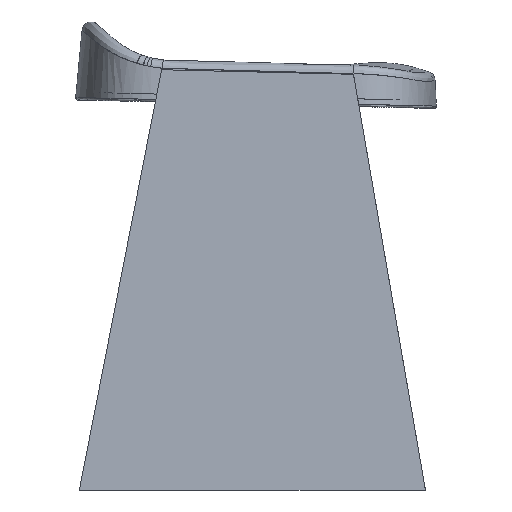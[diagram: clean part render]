
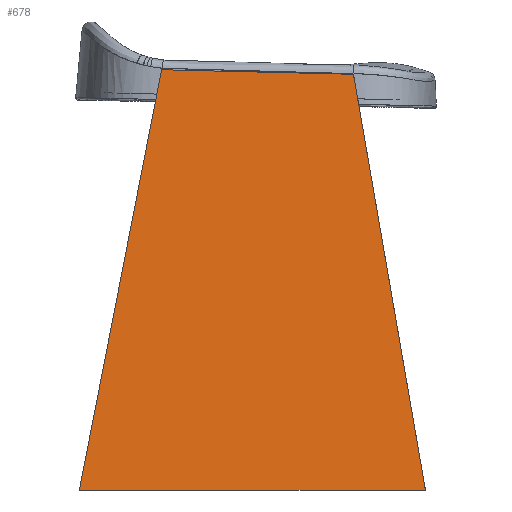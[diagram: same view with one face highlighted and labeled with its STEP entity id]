
A CAD part, left-side view. The second image highlights one B-rep face of the part: STEP entity #678.
In plain terms, the highlighted free-form (B-spline) face has degree [1, 1] with [2, 2] control points.
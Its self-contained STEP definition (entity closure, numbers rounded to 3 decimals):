
#678=ADVANCED_FACE('',(#775),#4259,.T.);
#775=FACE_OUTER_BOUND('',#880,.T.);
#880=EDGE_LOOP('',(#1276,#1277,#1278,#1279));
#1276=ORIENTED_EDGE('',*,*,#3060,.T.);
#1277=ORIENTED_EDGE('',*,*,#3061,.T.);
#1278=ORIENTED_EDGE('',*,*,#3062,.T.);
#1279=ORIENTED_EDGE('',*,*,#3063,.T.);
#1722=PCURVE('',#4259,#2168);
#1723=PCURVE('',#4259,#2169);
#1724=PCURVE('',#4259,#2170);
#1725=PCURVE('',#4259,#2171);
#2168=DEFINITIONAL_REPRESENTATION('',(#3653),#51778);
#2169=DEFINITIONAL_REPRESENTATION('',(#3655),#51778);
#2170=DEFINITIONAL_REPRESENTATION('',(#3657),#51778);
#2171=DEFINITIONAL_REPRESENTATION('',(#3659),#51778);
#2614=SURFACE_CURVE('',#3652,(#1722),.PCURVE_S1.);
#2615=SURFACE_CURVE('',#3654,(#1723),.PCURVE_S1.);
#2616=SURFACE_CURVE('',#3656,(#1724),.PCURVE_S1.);
#2617=SURFACE_CURVE('',#3658,(#1725),.PCURVE_S1.);
#3060=EDGE_CURVE('',#4166,#4167,#2614,.T.);
#3061=EDGE_CURVE('',#4167,#4164,#2615,.T.);
#3062=EDGE_CURVE('',#4164,#4165,#2616,.T.);
#3063=EDGE_CURVE('',#4165,#4166,#2617,.T.);
#3652=B_SPLINE_CURVE_WITH_KNOTS('',3,(#51271,#51272,#51273,#51274),
 .UNSPECIFIED.,.F.,.F.,(4,4),(1991.23,2369.877),
 .UNSPECIFIED.);
#3653=B_SPLINE_CURVE_WITH_KNOTS('',3,(#51275,#51276,#51277,#51278),
 .UNSPECIFIED.,.F.,.F.,(4,4),(1991.23,2369.877),
 .UNSPECIFIED.);
#3654=B_SPLINE_CURVE_WITH_KNOTS('',3,(#51279,#51280,#51281,#51282),
 .UNSPECIFIED.,.F.,.F.,(4,4),(2369.877,2832.75),
 .UNSPECIFIED.);
#3655=B_SPLINE_CURVE_WITH_KNOTS('',3,(#51283,#51284,#51285,#51286),
 .UNSPECIFIED.,.F.,.F.,(4,4),(2369.877,2832.75),
 .UNSPECIFIED.);
#3656=B_SPLINE_CURVE_WITH_KNOTS('',1,(#51287,#51288),.UNSPECIFIED.,.F.,
 .F.,(2,2),(0.,210.),.UNSPECIFIED.);
#3657=B_SPLINE_CURVE_WITH_KNOTS('',1,(#51289,#51290),.UNSPECIFIED.,.F.,
 .F.,(2,2),(0.,210.),.UNSPECIFIED.);
#3658=B_SPLINE_CURVE_WITH_KNOTS('',3,(#51291,#51292,#51293,#51294),
 .UNSPECIFIED.,.F.,.F.,(4,4),(3042.75,3512.605),
 .UNSPECIFIED.);
#3659=B_SPLINE_CURVE_WITH_KNOTS('',3,(#51295,#51296,#51297,#51298),
 .UNSPECIFIED.,.F.,.F.,(4,4),(3042.75,3512.605),
 .UNSPECIFIED.);
#4164=VERTEX_POINT('',#51267);
#4165=VERTEX_POINT('',#51268);
#4166=VERTEX_POINT('',#51269);
#4167=VERTEX_POINT('',#51270);
#4259=B_SPLINE_SURFACE_WITH_KNOTS('',1,1,((#51263,#51264),(#51265,#51266)),
 .UNSPECIFIED.,.F.,.F.,.F.,(2,2),(2,2),(-382.434,3.786),
(-465.756,4.611),.UNSPECIFIED.);
#51263=CARTESIAN_POINT('',(32.48,-3.786,464.622));
#51264=CARTESIAN_POINT('',(-0.322,-3.786,-4.6));
#51265=CARTESIAN_POINT('',(32.48,382.434,464.622));
#51266=CARTESIAN_POINT('',(-0.322,382.434,-4.6));
#51267=CARTESIAN_POINT('',(31.81,78.654,455.03));
#51268=CARTESIAN_POINT('',(32.159,288.594,460.022));
#51269=CARTESIAN_POINT('',(0.,378.647,0.));
#51270=CARTESIAN_POINT('',(0.,0.,0.));
#51271=CARTESIAN_POINT('',(0.,378.647,0.));
#51272=CARTESIAN_POINT('',(0.,252.431,0.));
#51273=CARTESIAN_POINT('',(0.,126.216,0.));
#51274=CARTESIAN_POINT('',(0.,0.,0.));
#51275=CARTESIAN_POINT('',(0.,0.));
#51276=CARTESIAN_POINT('',(-126.216,0.));
#51277=CARTESIAN_POINT('',(-252.431,0.));
#51278=CARTESIAN_POINT('',(-378.647,0.));
#51279=CARTESIAN_POINT('',(0.,0.,0.));
#51280=CARTESIAN_POINT('',(10.603,26.218,151.677));
#51281=CARTESIAN_POINT('',(21.207,52.436,303.354));
#51282=CARTESIAN_POINT('',(31.81,78.654,455.03));
#51283=CARTESIAN_POINT('',(-378.647,0.));
#51284=CARTESIAN_POINT('',(-352.429,-152.047));
#51285=CARTESIAN_POINT('',(-326.211,-304.094));
#51286=CARTESIAN_POINT('',(-299.993,-456.141));
#51287=CARTESIAN_POINT('',(31.81,78.654,455.03));
#51288=CARTESIAN_POINT('',(32.159,288.594,460.022));
#51289=CARTESIAN_POINT('',(-299.993,-456.141));
#51290=CARTESIAN_POINT('',(-90.053,-461.145));
#51291=CARTESIAN_POINT('',(32.159,288.594,460.022));
#51292=CARTESIAN_POINT('',(21.439,318.612,306.681));
#51293=CARTESIAN_POINT('',(10.72,348.63,153.341));
#51294=CARTESIAN_POINT('',(0.,378.647,0.));
#51295=CARTESIAN_POINT('',(-90.053,-461.145));
#51296=CARTESIAN_POINT('',(-60.035,-307.43));
#51297=CARTESIAN_POINT('',(-30.018,-153.715));
#51298=CARTESIAN_POINT('',(0.,0.));
#51778=(
GEOMETRIC_REPRESENTATION_CONTEXT(2)
PARAMETRIC_REPRESENTATION_CONTEXT()
REPRESENTATION_CONTEXT('pspace','')
);
